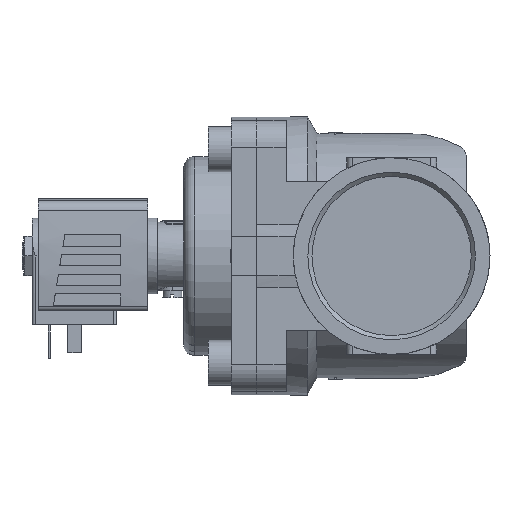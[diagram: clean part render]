
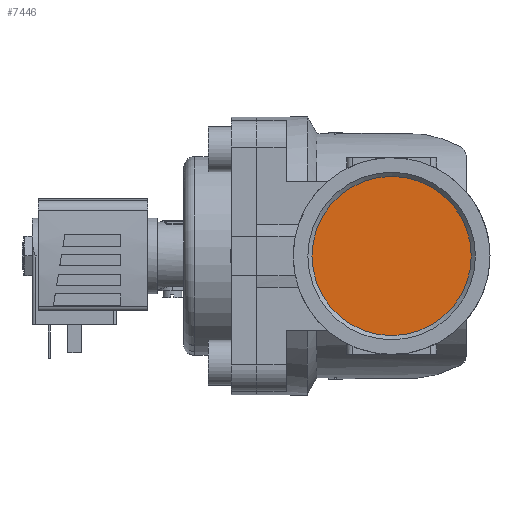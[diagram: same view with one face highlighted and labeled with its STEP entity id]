
A CAD part, left-side view. The second image highlights one B-rep face of the part: STEP entity #7446.
In plain terms, the highlighted planar face has unit normal (-1, 0, 0).
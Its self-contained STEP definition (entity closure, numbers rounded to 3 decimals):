
#310=PLANE('',#8004);
#2786=ORIENTED_EDGE('',*,*,#3978,.F.);
#3978=EDGE_CURVE('',#4678,#4678,#5015,.T.);
#4678=VERTEX_POINT('',#11501);
#5015=CIRCLE('',#8003,28.328);
#5331=EDGE_LOOP('',(#2786));
#5732=FACE_BOUND('',#5331,.T.);
#7446=ADVANCED_FACE('',(#5732),#310,.T.);
#8003=AXIS2_PLACEMENT_3D('',#11500,#9415,#9416);
#8004=AXIS2_PLACEMENT_3D('',#11502,#9417,#9418);
#9415=DIRECTION('',(1.,0.,0.));
#9416=DIRECTION('',(0.,1.,0.));
#9417=DIRECTION('',(-1.,0.,0.));
#9418=DIRECTION('',(0.,-1.,0.));
#11500=CARTESIAN_POINT('',(-39.5,0.,0.));
#11501=CARTESIAN_POINT('',(-39.5,28.328,0.));
#11502=CARTESIAN_POINT('',(-39.5,28.328,0.));
